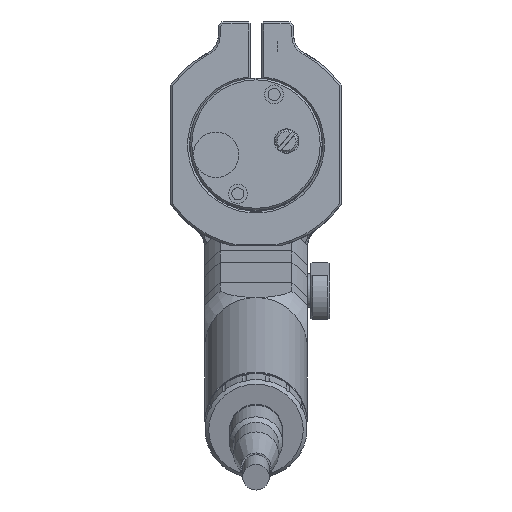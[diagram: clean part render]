
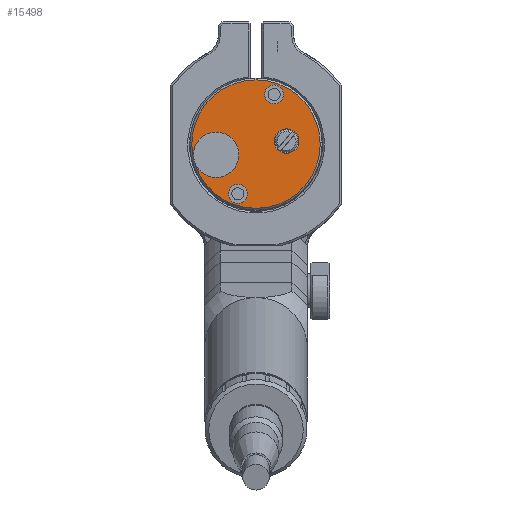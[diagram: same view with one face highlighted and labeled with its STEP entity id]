
A CAD part, top view. The second image highlights one B-rep face of the part: STEP entity #15498.
In plain terms, the highlighted planar face has unit normal (0, 0, 1).
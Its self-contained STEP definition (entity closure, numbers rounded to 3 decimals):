
#8 = CIRCLE ( 'NONE', #8558, 3.25 ) ;
#856 = ORIENTED_EDGE ( 'NONE', *, *, #28967, .T. ) ;
#1191 = DIRECTION ( 'NONE',  ( 0., 0., 1. ) ) ;
#1501 = CARTESIAN_POINT ( 'NONE',  ( -88.644, 8.838, 120.533 ) ) ;
#1571 = DIRECTION ( 'NONE',  ( 1., 0., 0. ) ) ;
#3158 = AXIS2_PLACEMENT_3D ( 'NONE', #1501, #3712, #12945 ) ;
#3432 = CARTESIAN_POINT ( 'NONE',  ( -76.567, 35.15, 120.533 ) ) ;
#3712 = DIRECTION ( 'NONE',  ( 0., 0., -1. ) ) ;
#5811 = AXIS2_PLACEMENT_3D ( 'NONE', #26346, #11884, #17067 ) ;
#6125 = AXIS2_PLACEMENT_3D ( 'NONE', #13098, #1191, #24707 ) ;
#6141 = VERTEX_POINT ( 'NONE', #17748 ) ;
#7252 = CARTESIAN_POINT ( 'NONE',  ( -72.505, 22.791, 120.533 ) ) ;
#8093 = FACE_OUTER_BOUND ( 'NONE', #22269, .T. ) ;
#8558 = AXIS2_PLACEMENT_3D ( 'NONE', #15891, #30030, #30190 ) ;
#10633 = VERTEX_POINT ( 'NONE', #3432 ) ;
#11884 = DIRECTION ( 'NONE',  ( 0., 0., -1. ) ) ;
#12771 = ORIENTED_EDGE ( 'NONE', *, *, #16449, .T. ) ;
#12852 = EDGE_CURVE ( 'NONE', #28910, #28910, #8, .T. ) ;
#12901 = EDGE_LOOP ( 'NONE', ( #12771 ) ) ;
#12945 = DIRECTION ( 'NONE',  ( 1., 0., 0. ) ) ;
#13098 = CARTESIAN_POINT ( 'NONE',  ( -83.856, 21.994, 120.533 ) ) ;
#13950 = DIRECTION ( 'NONE',  ( 0., 0., -1. ) ) ;
#14694 = CIRCLE ( 'NONE', #3158, 2.5 ) ;
#14815 = ORIENTED_EDGE ( 'NONE', *, *, #21333, .F. ) ;
#15498 = ADVANCED_FACE ( 'NONE', ( #8093, #22339, #20879, #29926 ), #19992, .T. ) ;
#15891 = CARTESIAN_POINT ( 'NONE',  ( -75.755, 22.791, 120.533 ) ) ;
#16449 = EDGE_CURVE ( 'NONE', #6141, #6141, #14694, .T. ) ;
#16787 = ORIENTED_EDGE ( 'NONE', *, *, #12852, .T. ) ;
#17067 = DIRECTION ( 'NONE',  ( 0., 1., 0. ) ) ;
#17094 = EDGE_LOOP ( 'NONE', ( #16787 ) ) ;
#17748 = CARTESIAN_POINT ( 'NONE',  ( -86.144, 8.838, 120.533 ) ) ;
#19331 = CIRCLE ( 'NONE', #5811, 17. ) ;
#19992 = PLANE ( 'NONE',  #6125 ) ;
#20879 = FACE_BOUND ( 'NONE', #30370, .T. ) ;
#21333 = EDGE_CURVE ( 'NONE', #25739, #25739, #19331, .T. ) ;
#22269 = EDGE_LOOP ( 'NONE', ( #14815 ) ) ;
#22339 = FACE_BOUND ( 'NONE', #17094, .T. ) ;
#24707 = DIRECTION ( 'NONE',  ( 1., 0., 0. ) ) ;
#25739 = VERTEX_POINT ( 'NONE', #30167 ) ;
#26346 = CARTESIAN_POINT ( 'NONE',  ( -83.856, 21.994, 120.533 ) ) ;
#26958 = AXIS2_PLACEMENT_3D ( 'NONE', #30154, #13950, #1571 ) ;
#27979 = CIRCLE ( 'NONE', #26958, 2.5 ) ;
#28910 = VERTEX_POINT ( 'NONE', #7252 ) ;
#28967 = EDGE_CURVE ( 'NONE', #10633, #10633, #27979, .T. ) ;
#29926 = FACE_BOUND ( 'NONE', #12901, .T. ) ;
#30030 = DIRECTION ( 'NONE',  ( 0., 0., -1. ) ) ;
#30154 = CARTESIAN_POINT ( 'NONE',  ( -79.067, 35.15, 120.533 ) ) ;
#30167 = CARTESIAN_POINT ( 'NONE',  ( -83.856, 38.994, 120.533 ) ) ;
#30190 = DIRECTION ( 'NONE',  ( 1., 0., 0. ) ) ;
#30370 = EDGE_LOOP ( 'NONE', ( #856 ) ) ;
